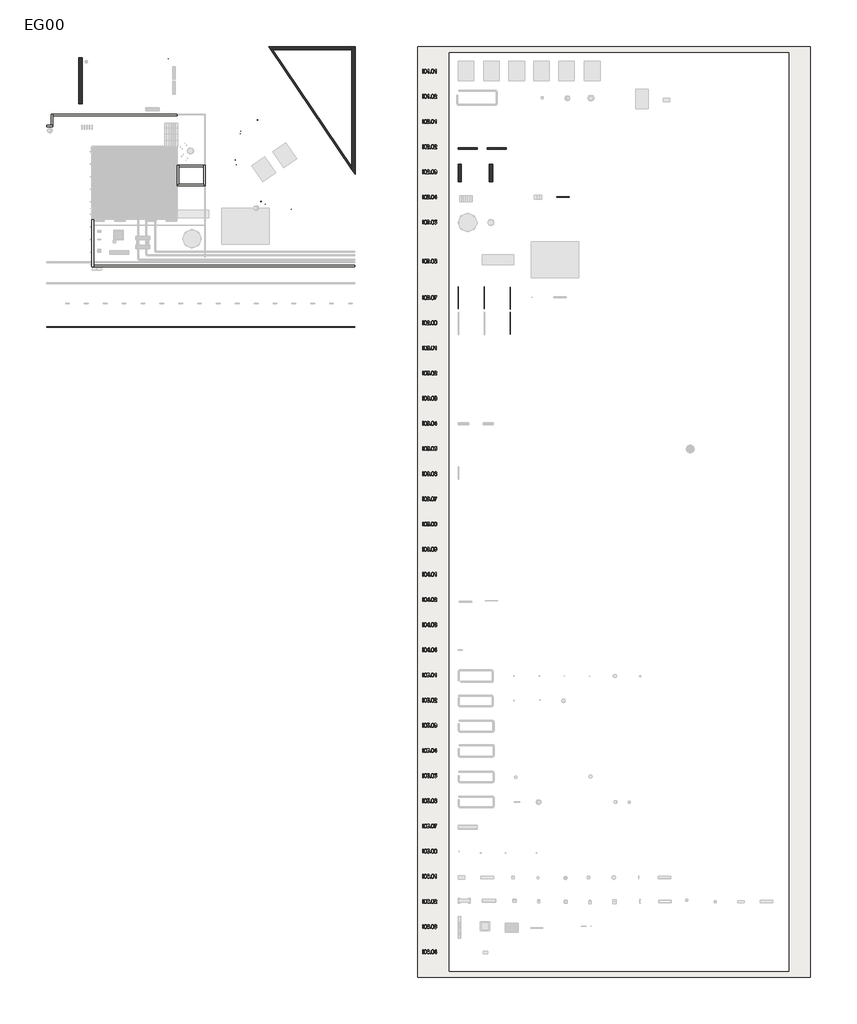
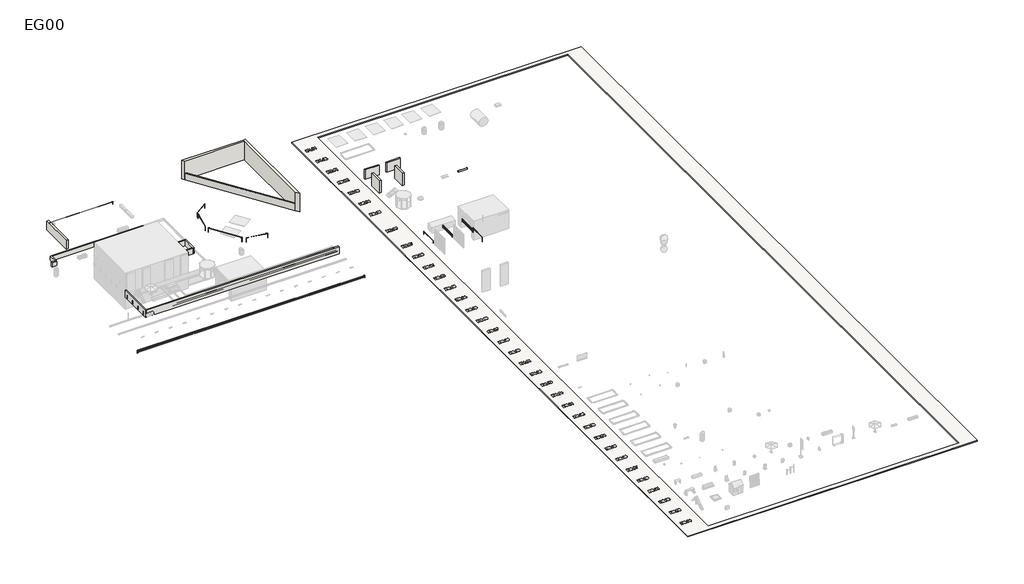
# One storey, part 1 of 11: 18 walls, 10 railings, 1 slab.
"""IFC4 building model written with IfcOpenShell, lengths in millimetres."""

from ifc_helpers import new_model, si_unit, point, frame, frame_2d, origin, origin_with_axes, place, context, project, spatial, polyline, circle_curve, trimmed, segment, composite_curve, outline, extrude, faceted_brep, element, save

model = new_model("IFC4")

# Units and contexts
model_context = context("Model", 3, world=origin())
ifc_project = project(units=[si_unit("LENGTHUNIT", "METRE", prefix="MILLI")], contexts=[model_context])

# Site, building, storey
site = spatial("IfcSite", under=ifc_project)
building = spatial("IfcBuilding", under=site)
storey = spatial("IfcBuildingStorey", under=building, Name="EG00", Elevation=0.0)

# Railings
placement = place(None, origin())
element("IfcRailing", 1, ObjectType="Elektrozaun", at=placement, inside=storey, context=model_context, shape_type="SweptSolid", body=[
    extrude(outline(composite_curve([segment(trimmed(circle_curve(frame_2d((0.0, 20.0)), 20.0), [point((-20.0, 20.0))], [point((20.0, 20.0))], False, "CARTESIAN"), True, "CONTINUOUS"), segment(trimmed(circle_curve(frame_2d((0.0, 20.0)), 20.0), [point((20.0, 20.0))], [point((-20.0, 20.0))], False, "CARTESIAN"), True, "CONTINUOUS")], self_intersect=False)), frame((12156.5106834, -3325.4339734, 2000.0), z_axis=(0.8290375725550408, 0.559192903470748, 0.0), x_axis=(0.559192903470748, -0.8290375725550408, 0.0)), (0.0, 0.0, 1.0), 3202.2135624),
    extrude(outline(composite_curve([segment(trimmed(circle_curve(frame_2d((12166.8736531, -3318.4440621)), 12.5), [point((12173.8635644, -3328.8070317))], [point((12159.8837418, -3308.0810924))], False, "CARTESIAN"), True, "CONTINUOUS"), segment(trimmed(circle_curve(frame_2d((12166.8736531, -3318.4440621)), 12.5), [point((12159.8837418, -3308.0810924))], [point((12173.8635644, -3328.8070317))], False, "CARTESIAN"), True, "CONTINUOUS")], self_intersect=False)), frame((0.0, 0.0, 1000.0), z_axis=(0.0, 0.0, 1.0), x_axis=(1.0, 0.0, 0.0)), (0.0, 0.0, 1.0), 960.0),
    extrude(outline(composite_curve([segment(trimmed(circle_curve(frame_2d((14800.9030723, -1541.7687852)), 12.5), [point((14807.8929836, -1552.1317549))], [point((14793.9131611, -1531.4058155))], False, "CARTESIAN"), True, "CONTINUOUS"), segment(trimmed(circle_curve(frame_2d((14800.9030723, -1541.7687852)), 12.5), [point((14793.9131611, -1531.4058155))], [point((14807.8929836, -1552.1317549))], False, "CARTESIAN"), True, "CONTINUOUS")], self_intersect=False)), frame((0.0, 0.0, 1000.0), z_axis=(0.0, 0.0, 1.0), x_axis=(1.0, 0.0, 0.0)), (0.0, 0.0, 1.0), 960.0),
])
element("IfcRailing", 2, ObjectType="Elektrozaun", at=placement, inside=storey, context=model_context, shape_type="SweptSolid", body=[
    extrude(outline(composite_curve([segment(trimmed(circle_curve(frame_2d((0.0, 20.0)), 20.0), [point((-20.0, 20.0))], [point((20.0, 20.0))], False, "CARTESIAN"), True, "CONTINUOUS"), segment(trimmed(circle_curve(frame_2d((0.0, 20.0)), 20.0), [point((20.0, 20.0))], [point((-20.0, 20.0))], False, "CARTESIAN"), True, "CONTINUOUS")], self_intersect=False)), frame((11267.9410025, -7896.728694, 2000.0), z_axis=(0.1908089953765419, 0.9816271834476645, 0.0), x_axis=(0.9816271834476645, -0.1908089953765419, 0.0)), (0.0, 0.0, 1.0), 4242.6406871),
    extrude(outline(composite_curve([segment(trimmed(circle_curve(frame_2d((11270.3261149, -7884.4583542)), 12.5), [point((11282.5964547, -7886.8434667))], [point((11258.0557751, -7882.0732418))], False, "CARTESIAN"), True, "CONTINUOUS"), segment(trimmed(circle_curve(frame_2d((11270.3261149, -7884.4583542)), 12.5), [point((11258.0557751, -7882.0732418))], [point((11282.5964547, -7886.8434667))], False, "CARTESIAN"), True, "CONTINUOUS")], self_intersect=False)), frame((0.0, 0.0, 1000.0), z_axis=(0.0, 0.0, 1.0), x_axis=(1.0, 0.0, 0.0)), (0.0, 0.0, 1.0), 960.0),
    extrude(outline(composite_curve([segment(trimmed(circle_curve(frame_2d((12075.0898973, -3744.3076058)), 12.5), [point((12087.3602371, -3746.6927182))], [point((12062.8195575, -3741.9224933))], False, "CARTESIAN"), True, "CONTINUOUS"), segment(trimmed(circle_curve(frame_2d((12075.0898973, -3744.3076058)), 12.5), [point((12062.8195575, -3741.9224933))], [point((12087.3602371, -3746.6927182))], False, "CARTESIAN"), True, "CONTINUOUS")], self_intersect=False)), frame((0.0, 0.0, 1000.0), z_axis=(0.0, 0.0, 1.0), x_axis=(1.0, 0.0, 0.0)), (0.0, 0.0, 1.0), 960.0),
])
element("IfcRailing", 3, ObjectType="Elektrozaun", at=placement, inside=storey, context=model_context, shape_type="SweptSolid", body=[
    extrude(outline(composite_curve([segment(trimmed(circle_curve(frame_2d((0.0, 20.0)), 20.0), [point((-20.0, 20.0))], [point((20.0, 20.0))], False, "CARTESIAN"), True, "CONTINUOUS"), segment(trimmed(circle_curve(frame_2d((0.0, 20.0)), 20.0), [point((20.0, 20.0))], [point((-20.0, 20.0))], False, "CARTESIAN"), True, "CONTINUOUS")], self_intersect=False)), frame((15374.0244409, -14508.0262308, 2000.0), z_axis=(-0.5591929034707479, 0.8290375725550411, 0.0), x_axis=(0.8290375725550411, 0.5591929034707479, 0.0)), (0.0, 0.0, 1.0), 7070.0),
    extrude(outline(composite_curve([segment(trimmed(circle_curve(frame_2d((15367.0345296, -14497.6632612)), 12.5), [point((15377.3974993, -14490.6733499))], [point((15356.67156, -14504.6531725))], False, "CARTESIAN"), True, "CONTINUOUS"), segment(trimmed(circle_curve(frame_2d((15367.0345296, -14497.6632612)), 12.5), [point((15356.67156, -14504.6531725))], [point((15377.3974993, -14490.6733499))], False, "CARTESIAN"), True, "CONTINUOUS")], self_intersect=False)), frame((0.0, 0.0, 1000.0), z_axis=(0.0, 0.0, 1.0), x_axis=(1.0, 0.0, 0.0)), (0.0, 0.0, 1.0), 960.0),
    extrude(outline(composite_curve([segment(trimmed(circle_curve(frame_2d((11427.5205247, -8657.0935625)), 12.5), [point((11437.8834943, -8650.1036512))], [point((11417.157555, -8664.0834738))], False, "CARTESIAN"), True, "CONTINUOUS"), segment(trimmed(circle_curve(frame_2d((11427.5205247, -8657.0935625)), 12.5), [point((11417.157555, -8664.0834738))], [point((11437.8834943, -8650.1036512))], False, "CARTESIAN"), True, "CONTINUOUS")], self_intersect=False)), frame((0.0, 0.0, 1000.0), z_axis=(0.0, 0.0, 1.0), x_axis=(1.0, 0.0, 0.0)), (0.0, 0.0, 1.0), 960.0),
])
element("IfcRailing", 4, ObjectType="Elektrozaun", at=placement, inside=storey, context=model_context, shape_type="SweptSolid", body=[
    extrude(outline(composite_curve([segment(trimmed(circle_curve(frame_2d((0.0, 20.0)), 20.0), [point((-19.9999999, 20.0))], [point((20.0, 20.0))], False, "CARTESIAN"), True, "CONTINUOUS"), segment(trimmed(circle_curve(frame_2d((0.0, 20.0)), 20.0), [point((20.0, 20.0))], [point((-19.9999999, 20.0))], False, "CARTESIAN"), True, "CONTINUOUS")], self_intersect=False)), frame((20176.9444462, -15739.9945181, 2000.0), z_axis=(-0.9816271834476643, 0.19080899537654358, 0.0), x_axis=(0.19080899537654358, 0.9816271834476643, 0.0)), (0.0, 0.0, 1.0), 4242.6406871),
    extrude(outline(composite_curve([segment(trimmed(circle_curve(frame_2d((20164.6741064, -15737.6094056)), 12.5), [point((20167.0592188, -15725.3390658))], [point((20162.2889939, -15749.8797454))], False, "CARTESIAN"), True, "CONTINUOUS"), segment(trimmed(circle_curve(frame_2d((20164.6741064, -15737.6094056)), 12.5), [point((20162.2889939, -15749.8797454))], [point((20167.0592188, -15725.3390658))], False, "CARTESIAN"), True, "CONTINUOUS")], self_intersect=False)), frame((0.0, 0.0, 1000.0), z_axis=(0.0, 0.0, 1.0), x_axis=(1.0, 0.0, 0.0)), (0.0, 0.0, 1.0), 960.0),
    extrude(outline(composite_curve([segment(trimmed(circle_curve(frame_2d((16024.5233579, -14932.8456233)), 12.5), [point((16026.9084703, -14920.5752835))], [point((16022.1382454, -14945.1159631))], False, "CARTESIAN"), True, "CONTINUOUS"), segment(trimmed(circle_curve(frame_2d((16024.5233579, -14932.8456233)), 12.5), [point((16022.1382454, -14945.1159631))], [point((16026.9084703, -14920.5752835))], False, "CARTESIAN"), True, "CONTINUOUS")], self_intersect=False)), frame((0.0, 0.0, 1000.0), z_axis=(0.0, 0.0, 1.0), x_axis=(1.0, 0.0, 0.0)), (0.0, 0.0, 1.0), 960.0),
])
element("IfcRailing", 5, ObjectType="Leitschranke", at=placement, inside=storey, context=model_context, shape_type="SweptSolid", body=[
    extrude(outline(composite_curve([segment(trimmed(circle_curve(frame_2d((-34455.6172052, 280.0)), 20.0), [point((-34475.6172052, 280.0))], [point((-34435.6172052, 280.0))], False, "CARTESIAN"), True, "CONTINUOUS"), segment(trimmed(circle_curve(frame_2d((-34455.6172052, 280.0)), 20.0), [point((-34435.6172052, 280.0))], [point((-34475.6172052, 280.0))], False, "CARTESIAN"), True, "CONTINUOUS")], self_intersect=False)), frame((-18727.7537228, 0.0, 0.0), z_axis=(1.0, 0.0, 0.0), x_axis=(0.0, 1.0, 0.0)), (0.0, 0.0, 1.0), 49019.0),
    extrude(outline(composite_curve([segment(trimmed(circle_curve(frame_2d((-34455.6172052, -215.0)), 15.0), [point((-34440.6172052, -215.0))], [point((-34470.6172052, -215.0))], False, "CARTESIAN"), True, "CONTINUOUS"), segment(trimmed(circle_curve(frame_2d((-34455.6172052, -215.0)), 15.0), [point((-34470.6172052, -215.0))], [point((-34440.6172052, -215.0))], False, "CARTESIAN"), True, "CONTINUOUS")], self_intersect=False)), frame((-18727.7537228, 0.0, 0.0), z_axis=(1.0, 0.0, 0.0), x_axis=(0.0, 1.0, 0.0)), (0.0, 0.0, 1.0), 49019.0),
    extrude(outline(composite_curve([segment(trimmed(circle_curve(frame_2d((-34455.6172052, -115.0)), 15.0), [point((-34440.6172052, -115.0))], [point((-34470.6172052, -115.0))], False, "CARTESIAN"), True, "CONTINUOUS"), segment(trimmed(circle_curve(frame_2d((-34455.6172052, -115.0)), 15.0), [point((-34470.6172052, -115.0))], [point((-34440.6172052, -115.0))], False, "CARTESIAN"), True, "CONTINUOUS")], self_intersect=False)), frame((-18727.7537228, 0.0, 0.0), z_axis=(1.0, 0.0, 0.0), x_axis=(0.0, 1.0, 0.0)), (0.0, 0.0, 1.0), 49019.0),
    extrude(outline(composite_curve([segment(trimmed(circle_curve(frame_2d((-34455.6172052, -15.0)), 15.0), [point((-34440.6172052, -15.0))], [point((-34470.6172052, -15.0))], False, "CARTESIAN"), True, "CONTINUOUS"), segment(trimmed(circle_curve(frame_2d((-34455.6172052, -15.0)), 15.0), [point((-34470.6172052, -15.0))], [point((-34440.6172052, -15.0))], False, "CARTESIAN"), True, "CONTINUOUS")], self_intersect=False)), frame((-18727.7537228, 0.0, 0.0), z_axis=(1.0, 0.0, 0.0), x_axis=(0.0, 1.0, 0.0)), (0.0, 0.0, 1.0), 49019.0),
    extrude(outline(composite_curve([segment(trimmed(circle_curve(frame_2d((-34455.6172052, 85.0)), 15.0), [point((-34440.6172052, 85.0))], [point((-34470.6172052, 85.0))], False, "CARTESIAN"), True, "CONTINUOUS"), segment(trimmed(circle_curve(frame_2d((-34455.6172052, 85.0)), 15.0), [point((-34470.6172052, 85.0))], [point((-34440.6172052, 85.0))], False, "CARTESIAN"), True, "CONTINUOUS")], self_intersect=False)), frame((-18727.7537228, 0.0, 0.0), z_axis=(1.0, 0.0, 0.0), x_axis=(0.0, 1.0, 0.0)), (0.0, 0.0, 1.0), 49019.0),
    extrude(outline(composite_curve([segment(trimmed(circle_curve(frame_2d((-34455.6172052, 185.0)), 15.0), [point((-34440.6172052, 185.0))], [point((-34470.6172052, 185.0))], False, "CARTESIAN"), True, "CONTINUOUS"), segment(trimmed(circle_curve(frame_2d((-34455.6172052, 185.0)), 15.0), [point((-34470.6172052, 185.0))], [point((-34440.6172052, 185.0))], False, "CARTESIAN"), True, "CONTINUOUS")], self_intersect=False)), frame((-18727.7537228, 0.0, 0.0), z_axis=(1.0, 0.0, 0.0), x_axis=(0.0, 1.0, 0.0)), (0.0, 0.0, 1.0), 49019.0),
    extrude(outline(polyline([(30271.2462772, -34465.6172052), (30271.2462772, -34445.6172052), (30291.2462772, -34445.6172052), (30291.2462772, -34465.6172052), (30271.2462772, -34465.6172052)])), frame((0.0, 0.0, -300.0), z_axis=(0.0, 0.0, 1.0), x_axis=(1.0, 0.0, 0.0)), (0.0, 0.0, 1.0), 560.0),
    extrude(outline(polyline([(-18727.7537228, -34465.6172052), (-18727.7537228, -34445.6172052), (-18707.7537228, -34445.6172052), (-18707.7537228, -34465.6172052), (-18727.7537228, -34465.6172052)])), frame((0.0, 0.0, -300.0), z_axis=(0.0, 0.0, 1.0), x_axis=(1.0, 0.0, 0.0)), (0.0, 0.0, 1.0), 560.0),
])
element("IfcRailing", 6, ObjectType="Geländer", at=placement, inside=storey, context=model_context, shape_type="SweptSolid", body=[
    extrude(outline(composite_curve([segment(trimmed(circle_curve(frame_2d((580.0, 50871.626143)), 20.0), [point((580.0, 50891.626143))], [point((580.0, 50851.626143))], False, "CARTESIAN"), True, "CONTINUOUS"), segment(trimmed(circle_curve(frame_2d((580.0, 50871.626143)), 20.0), [point((580.0, 50851.626143))], [point((580.0, 50891.626143))], False, "CARTESIAN"), True, "CONTINUOUS")], self_intersect=False)), frame((0.0, -31547.393641, 0.0), z_axis=(0.0, 1.0, 0.0), x_axis=(0.0, 0.0, 1.0)), (0.0, 0.0, 1.0), 3500.0),
    extrude(outline(composite_curve([segment(trimmed(circle_curve(frame_2d((85.0, 50871.626143)), 15.0), [point((85.0, 50886.626143))], [point((85.0, 50856.626143))], False, "CARTESIAN"), True, "CONTINUOUS"), segment(trimmed(circle_curve(frame_2d((85.0, 50871.626143)), 15.0), [point((85.0, 50856.626143))], [point((85.0, 50886.626143))], False, "CARTESIAN"), True, "CONTINUOUS")], self_intersect=False)), frame((0.0, -31547.393641, 0.0), z_axis=(0.0, 1.0, 0.0), x_axis=(0.0, 0.0, 1.0)), (0.0, 0.0, 1.0), 3500.0),
    extrude(outline(polyline([(50861.626143, -28157.393641), (50861.626143, -28137.393641), (50881.626143, -28137.393641), (50881.626143, -28157.393641), (50861.626143, -28157.393641)])), frame((0.0, 0.0, 100.0), z_axis=(0.0, 0.0, 1.0), x_axis=(1.0, 0.0, 0.0)), (0.0, 0.0, 1.0), 460.0),
    extrude(outline(polyline([(50861.626143, -28257.393641), (50861.626143, -28237.393641), (50881.626143, -28237.393641), (50881.626143, -28257.393641), (50861.626143, -28257.393641)])), frame((0.0, 0.0, 100.0), z_axis=(0.0, 0.0, 1.0), x_axis=(1.0, 0.0, 0.0)), (0.0, 0.0, 1.0), 460.0),
    extrude(outline(polyline([(50861.626143, -28357.393641), (50861.626143, -28337.393641), (50881.626143, -28337.393641), (50881.626143, -28357.393641), (50861.626143, -28357.393641)])), frame((0.0, 0.0, 100.0), z_axis=(0.0, 0.0, 1.0), x_axis=(1.0, 0.0, 0.0)), (0.0, 0.0, 1.0), 460.0),
    extrude(outline(polyline([(50861.626143, -28457.393641), (50861.626143, -28437.393641), (50881.626143, -28437.393641), (50881.626143, -28457.393641), (50861.626143, -28457.393641)])), frame((0.0, 0.0, 100.0), z_axis=(0.0, 0.0, 1.0), x_axis=(1.0, 0.0, 0.0)), (0.0, 0.0, 1.0), 460.0),
    extrude(outline(polyline([(50861.626143, -28557.393641), (50861.626143, -28537.393641), (50881.626143, -28537.393641), (50881.626143, -28557.393641), (50861.626143, -28557.393641)])), frame((0.0, 0.0, 100.0), z_axis=(0.0, 0.0, 1.0), x_axis=(1.0, 0.0, 0.0)), (0.0, 0.0, 1.0), 460.0),
    extrude(outline(polyline([(50861.626143, -28657.393641), (50861.626143, -28637.393641), (50881.626143, -28637.393641), (50881.626143, -28657.393641), (50861.626143, -28657.393641)])), frame((0.0, 0.0, 100.0), z_axis=(0.0, 0.0, 1.0), x_axis=(1.0, 0.0, 0.0)), (0.0, 0.0, 1.0), 460.0),
    extrude(outline(polyline([(50861.626143, -28757.393641), (50861.626143, -28737.393641), (50881.626143, -28737.393641), (50881.626143, -28757.393641), (50861.626143, -28757.393641)])), frame((0.0, 0.0, 100.0), z_axis=(0.0, 0.0, 1.0), x_axis=(1.0, 0.0, 0.0)), (0.0, 0.0, 1.0), 460.0),
    extrude(outline(polyline([(50861.626143, -28857.393641), (50861.626143, -28837.393641), (50881.626143, -28837.393641), (50881.626143, -28857.393641), (50861.626143, -28857.393641)])), frame((0.0, 0.0, 100.0), z_axis=(0.0, 0.0, 1.0), x_axis=(1.0, 0.0, 0.0)), (0.0, 0.0, 1.0), 460.0),
    extrude(outline(polyline([(50861.626143, -28957.393641), (50861.626143, -28937.393641), (50881.626143, -28937.393641), (50881.626143, -28957.393641), (50861.626143, -28957.393641)])), frame((0.0, 0.0, 100.0), z_axis=(0.0, 0.0, 1.0), x_axis=(1.0, 0.0, 0.0)), (0.0, 0.0, 1.0), 460.0),
    extrude(outline(polyline([(50861.626143, -29057.393641), (50861.626143, -29037.393641), (50881.626143, -29037.393641), (50881.626143, -29057.393641), (50861.626143, -29057.393641)])), frame((0.0, 0.0, 100.0), z_axis=(0.0, 0.0, 1.0), x_axis=(1.0, 0.0, 0.0)), (0.0, 0.0, 1.0), 460.0),
    extrude(outline(polyline([(50861.626143, -29157.393641), (50861.626143, -29137.393641), (50881.626143, -29137.393641), (50881.626143, -29157.393641), (50861.626143, -29157.393641)])), frame((0.0, 0.0, 100.0), z_axis=(0.0, 0.0, 1.0), x_axis=(1.0, 0.0, 0.0)), (0.0, 0.0, 1.0), 460.0),
    extrude(outline(polyline([(50861.626143, -29257.393641), (50861.626143, -29237.393641), (50881.626143, -29237.393641), (50881.626143, -29257.393641), (50861.626143, -29257.393641)])), frame((0.0, 0.0, 100.0), z_axis=(0.0, 0.0, 1.0), x_axis=(1.0, 0.0, 0.0)), (0.0, 0.0, 1.0), 460.0),
    extrude(outline(polyline([(50861.626143, -29357.393641), (50861.626143, -29337.393641), (50881.626143, -29337.393641), (50881.626143, -29357.393641), (50861.626143, -29357.393641)])), frame((0.0, 0.0, 100.0), z_axis=(0.0, 0.0, 1.0), x_axis=(1.0, 0.0, 0.0)), (0.0, 0.0, 1.0), 460.0),
    extrude(outline(polyline([(50861.626143, -29457.393641), (50861.626143, -29437.393641), (50881.626143, -29437.393641), (50881.626143, -29457.393641), (50861.626143, -29457.393641)])), frame((0.0, 0.0, 100.0), z_axis=(0.0, 0.0, 1.0), x_axis=(1.0, 0.0, 0.0)), (0.0, 0.0, 1.0), 460.0),
    extrude(outline(polyline([(50861.626143, -29557.393641), (50861.626143, -29537.393641), (50881.626143, -29537.393641), (50881.626143, -29557.393641), (50861.626143, -29557.393641)])), frame((0.0, 0.0, 100.0), z_axis=(0.0, 0.0, 1.0), x_axis=(1.0, 0.0, 0.0)), (0.0, 0.0, 1.0), 460.0),
    extrude(outline(polyline([(50861.626143, -29657.393641), (50861.626143, -29637.393641), (50881.626143, -29637.393641), (50881.626143, -29657.393641), (50861.626143, -29657.393641)])), frame((0.0, 0.0, 100.0), z_axis=(0.0, 0.0, 1.0), x_axis=(1.0, 0.0, 0.0)), (0.0, 0.0, 1.0), 460.0),
    extrude(outline(polyline([(50861.626143, -29757.393641), (50861.626143, -29737.393641), (50881.626143, -29737.393641), (50881.626143, -29757.393641), (50861.626143, -29757.393641)])), frame((0.0, 0.0, 100.0), z_axis=(0.0, 0.0, 1.0), x_axis=(1.0, 0.0, 0.0)), (0.0, 0.0, 1.0), 460.0),
    extrude(outline(polyline([(50861.626143, -29857.393641), (50861.626143, -29837.393641), (50881.626143, -29837.393641), (50881.626143, -29857.393641), (50861.626143, -29857.393641)])), frame((0.0, 0.0, 100.0), z_axis=(0.0, 0.0, 1.0), x_axis=(1.0, 0.0, 0.0)), (0.0, 0.0, 1.0), 460.0),
    extrude(outline(polyline([(50861.626143, -29957.393641), (50861.626143, -29937.393641), (50881.626143, -29937.393641), (50881.626143, -29957.393641), (50861.626143, -29957.393641)])), frame((0.0, 0.0, 100.0), z_axis=(0.0, 0.0, 1.0), x_axis=(1.0, 0.0, 0.0)), (0.0, 0.0, 1.0), 460.0),
    extrude(outline(polyline([(50861.626143, -30057.393641), (50861.626143, -30037.393641), (50881.626143, -30037.393641), (50881.626143, -30057.393641), (50861.626143, -30057.393641)])), frame((0.0, 0.0, 100.0), z_axis=(0.0, 0.0, 1.0), x_axis=(1.0, 0.0, 0.0)), (0.0, 0.0, 1.0), 460.0),
    extrude(outline(polyline([(50861.626143, -30157.393641), (50861.626143, -30137.393641), (50881.626143, -30137.393641), (50881.626143, -30157.393641), (50861.626143, -30157.393641)])), frame((0.0, 0.0, 100.0), z_axis=(0.0, 0.0, 1.0), x_axis=(1.0, 0.0, 0.0)), (0.0, 0.0, 1.0), 460.0),
    extrude(outline(polyline([(50861.626143, -30257.393641), (50861.626143, -30237.393641), (50881.626143, -30237.393641), (50881.626143, -30257.393641), (50861.626143, -30257.393641)])), frame((0.0, 0.0, 100.0), z_axis=(0.0, 0.0, 1.0), x_axis=(1.0, 0.0, 0.0)), (0.0, 0.0, 1.0), 460.0),
    extrude(outline(polyline([(50861.626143, -30357.393641), (50861.626143, -30337.393641), (50881.626143, -30337.393641), (50881.626143, -30357.393641), (50861.626143, -30357.393641)])), frame((0.0, 0.0, 100.0), z_axis=(0.0, 0.0, 1.0), x_axis=(1.0, 0.0, 0.0)), (0.0, 0.0, 1.0), 460.0),
    extrude(outline(polyline([(50861.626143, -30457.393641), (50861.626143, -30437.393641), (50881.626143, -30437.393641), (50881.626143, -30457.393641), (50861.626143, -30457.393641)])), frame((0.0, 0.0, 100.0), z_axis=(0.0, 0.0, 1.0), x_axis=(1.0, 0.0, 0.0)), (0.0, 0.0, 1.0), 460.0),
    extrude(outline(polyline([(50861.626143, -30557.393641), (50861.626143, -30537.393641), (50881.626143, -30537.393641), (50881.626143, -30557.393641), (50861.626143, -30557.393641)])), frame((0.0, 0.0, 100.0), z_axis=(0.0, 0.0, 1.0), x_axis=(1.0, 0.0, 0.0)), (0.0, 0.0, 1.0), 460.0),
    extrude(outline(polyline([(50861.626143, -30657.393641), (50861.626143, -30637.393641), (50881.626143, -30637.393641), (50881.626143, -30657.393641), (50861.626143, -30657.393641)])), frame((0.0, 0.0, 100.0), z_axis=(0.0, 0.0, 1.0), x_axis=(1.0, 0.0, 0.0)), (0.0, 0.0, 1.0), 460.0),
    extrude(outline(polyline([(50861.626143, -30757.393641), (50861.626143, -30737.393641), (50881.626143, -30737.393641), (50881.626143, -30757.393641), (50861.626143, -30757.393641)])), frame((0.0, 0.0, 100.0), z_axis=(0.0, 0.0, 1.0), x_axis=(1.0, 0.0, 0.0)), (0.0, 0.0, 1.0), 460.0),
    extrude(outline(polyline([(50861.626143, -30857.393641), (50861.626143, -30837.393641), (50881.626143, -30837.393641), (50881.626143, -30857.393641), (50861.626143, -30857.393641)])), frame((0.0, 0.0, 100.0), z_axis=(0.0, 0.0, 1.0), x_axis=(1.0, 0.0, 0.0)), (0.0, 0.0, 1.0), 460.0),
    extrude(outline(polyline([(50861.626143, -30957.393641), (50861.626143, -30937.393641), (50881.626143, -30937.393641), (50881.626143, -30957.393641), (50861.626143, -30957.393641)])), frame((0.0, 0.0, 100.0), z_axis=(0.0, 0.0, 1.0), x_axis=(1.0, 0.0, 0.0)), (0.0, 0.0, 1.0), 460.0),
    extrude(outline(polyline([(50861.626143, -31057.393641), (50861.626143, -31037.393641), (50881.626143, -31037.393641), (50881.626143, -31057.393641), (50861.626143, -31057.393641)])), frame((0.0, 0.0, 100.0), z_axis=(0.0, 0.0, 1.0), x_axis=(1.0, 0.0, 0.0)), (0.0, 0.0, 1.0), 460.0),
    extrude(outline(polyline([(50861.626143, -31157.393641), (50861.626143, -31137.393641), (50881.626143, -31137.393641), (50881.626143, -31157.393641), (50861.626143, -31157.393641)])), frame((0.0, 0.0, 100.0), z_axis=(0.0, 0.0, 1.0), x_axis=(1.0, 0.0, 0.0)), (0.0, 0.0, 1.0), 460.0),
    extrude(outline(polyline([(50861.626143, -31257.393641), (50861.626143, -31237.393641), (50881.626143, -31237.393641), (50881.626143, -31257.393641), (50861.626143, -31257.393641)])), frame((0.0, 0.0, 100.0), z_axis=(0.0, 0.0, 1.0), x_axis=(1.0, 0.0, 0.0)), (0.0, 0.0, 1.0), 460.0),
    extrude(outline(polyline([(50861.626143, -31357.393641), (50861.626143, -31337.393641), (50881.626143, -31337.393641), (50881.626143, -31357.393641), (50861.626143, -31357.393641)])), frame((0.0, 0.0, 100.0), z_axis=(0.0, 0.0, 1.0), x_axis=(1.0, 0.0, 0.0)), (0.0, 0.0, 1.0), 460.0),
    extrude(outline(polyline([(50861.626143, -31457.393641), (50861.626143, -31437.393641), (50881.626143, -31437.393641), (50881.626143, -31457.393641), (50861.626143, -31457.393641)])), frame((0.0, 0.0, 100.0), z_axis=(0.0, 0.0, 1.0), x_axis=(1.0, 0.0, 0.0)), (0.0, 0.0, 1.0), 460.0),
    extrude(outline(polyline([(50861.626143, -28067.393641), (50861.626143, -28047.393641), (50881.626143, -28047.393641), (50881.626143, -28067.393641), (50861.626143, -28067.393641)])), origin_with_axes(), (0.0, 0.0, 1.0), 560.0),
    extrude(outline(polyline([(50861.626143, -31547.393641), (50861.626143, -31527.393641), (50881.626143, -31527.393641), (50881.626143, -31547.393641), (50861.626143, -31547.393641)])), origin_with_axes(), (0.0, 0.0, 1.0), 560.0),
])
element("IfcRailing", 7, ObjectType="Leitschranke", at=placement, inside=storey, context=model_context, shape_type="SweptSolid", body=[
    extrude(outline(composite_curve([segment(trimmed(circle_curve(frame_2d((580.0, 55005.2484531)), 20.0), [point((580.0, 55025.2484531))], [point((580.0, 54985.2484531))], False, "CARTESIAN"), True, "CONTINUOUS"), segment(trimmed(circle_curve(frame_2d((580.0, 55005.2484531)), 20.0), [point((580.0, 54985.2484531))], [point((580.0, 55025.2484531))], False, "CARTESIAN"), True, "CONTINUOUS")], self_intersect=False)), frame((0.0, -31628.697095, 0.0), z_axis=(0.0, 1.0, 0.0), x_axis=(0.0, 0.0, 1.0)), (0.0, 0.0, 1.0), 3500.0),
    extrude(outline(composite_curve([segment(trimmed(circle_curve(frame_2d((85.0, 55005.2484531)), 15.0), [point((85.0, 55020.2484531))], [point((85.0, 54990.2484531))], False, "CARTESIAN"), True, "CONTINUOUS"), segment(trimmed(circle_curve(frame_2d((85.0, 55005.2484531)), 15.0), [point((85.0, 54990.2484531))], [point((85.0, 55020.2484531))], False, "CARTESIAN"), True, "CONTINUOUS")], self_intersect=False)), frame((0.0, -31628.697095, 0.0), z_axis=(0.0, 1.0, 0.0), x_axis=(0.0, 0.0, 1.0)), (0.0, 0.0, 1.0), 3500.0),
    extrude(outline(composite_curve([segment(trimmed(circle_curve(frame_2d((185.0, 55005.2484531)), 15.0), [point((185.0, 55020.2484531))], [point((185.0, 54990.2484531))], False, "CARTESIAN"), True, "CONTINUOUS"), segment(trimmed(circle_curve(frame_2d((185.0, 55005.2484531)), 15.0), [point((185.0, 54990.2484531))], [point((185.0, 55020.2484531))], False, "CARTESIAN"), True, "CONTINUOUS")], self_intersect=False)), frame((0.0, -31628.697095, 0.0), z_axis=(0.0, 1.0, 0.0), x_axis=(0.0, 0.0, 1.0)), (0.0, 0.0, 1.0), 3500.0),
    extrude(outline(composite_curve([segment(trimmed(circle_curve(frame_2d((285.0, 55005.2484531)), 15.0), [point((285.0, 55020.2484531))], [point((285.0, 54990.2484531))], False, "CARTESIAN"), True, "CONTINUOUS"), segment(trimmed(circle_curve(frame_2d((285.0, 55005.2484531)), 15.0), [point((285.0, 54990.2484531))], [point((285.0, 55020.2484531))], False, "CARTESIAN"), True, "CONTINUOUS")], self_intersect=False)), frame((0.0, -31628.697095, 0.0), z_axis=(0.0, 1.0, 0.0), x_axis=(0.0, 0.0, 1.0)), (0.0, 0.0, 1.0), 3500.0),
    extrude(outline(composite_curve([segment(trimmed(circle_curve(frame_2d((385.0, 55005.2484531)), 15.0), [point((385.0, 55020.2484531))], [point((385.0, 54990.2484531))], False, "CARTESIAN"), True, "CONTINUOUS"), segment(trimmed(circle_curve(frame_2d((385.0, 55005.2484531)), 15.0), [point((385.0, 54990.2484531))], [point((385.0, 55020.2484531))], False, "CARTESIAN"), True, "CONTINUOUS")], self_intersect=False)), frame((0.0, -31628.697095, 0.0), z_axis=(0.0, 1.0, 0.0), x_axis=(0.0, 0.0, 1.0)), (0.0, 0.0, 1.0), 3500.0),
    extrude(outline(composite_curve([segment(trimmed(circle_curve(frame_2d((485.0, 55005.2484531)), 15.0), [point((485.0, 55020.2484531))], [point((485.0, 54990.2484531))], False, "CARTESIAN"), True, "CONTINUOUS"), segment(trimmed(circle_curve(frame_2d((485.0, 55005.2484531)), 15.0), [point((485.0, 54990.2484531))], [point((485.0, 55020.2484531))], False, "CARTESIAN"), True, "CONTINUOUS")], self_intersect=False)), frame((0.0, -31628.697095, 0.0), z_axis=(0.0, 1.0, 0.0), x_axis=(0.0, 0.0, 1.0)), (0.0, 0.0, 1.0), 3500.0),
    extrude(outline(polyline([(54995.2484531, -28148.697095), (54995.2484531, -28128.697095), (55015.2484531, -28128.697095), (55015.2484531, -28148.697095), (54995.2484531, -28148.697095)])), origin_with_axes(), (0.0, 0.0, 1.0), 560.0),
    extrude(outline(polyline([(54995.2484531, -31628.697095), (54995.2484531, -31608.697095), (55015.2484531, -31608.697095), (55015.2484531, -31628.697095), (54995.2484531, -31628.697095)])), origin_with_axes(), (0.0, 0.0, 1.0), 560.0),
])
element("IfcRailing", 8, ObjectType="Elektrozaun", at=placement, inside=storey, context=model_context, shape_type="SweptSolid", body=[
    extrude(outline(composite_curve([segment(trimmed(circle_curve(frame_2d((980.0, 54996.9137651)), 20.0), [point((980.0, 55016.9137651))], [point((980.0, 54976.9137651))], False, "CARTESIAN"), True, "CONTINUOUS"), segment(trimmed(circle_curve(frame_2d((980.0, 54996.9137651)), 20.0), [point((980.0, 54976.9137651))], [point((980.0, 55016.9137651))], False, "CARTESIAN"), True, "CONTINUOUS")], self_intersect=False)), frame((0.0, -35618.164712, 0.0), z_axis=(0.0, 1.0, 0.0), x_axis=(0.0, 0.0, 1.0)), (0.0, 0.0, 1.0), 3500.0),
    extrude(outline(composite_curve([segment(trimmed(circle_curve(frame_2d((54996.9137651, -32130.664712)), 12.5), [point((55009.4137651, -32130.664712))], [point((54984.4137651, -32130.664712))], False, "CARTESIAN"), True, "CONTINUOUS"), segment(trimmed(circle_curve(frame_2d((54996.9137651, -32130.664712)), 12.5), [point((54984.4137651, -32130.664712))], [point((55009.4137651, -32130.664712))], False, "CARTESIAN"), True, "CONTINUOUS")], self_intersect=False)), origin_with_axes(), (0.0, 0.0, 1.0), 960.0),
    extrude(outline(composite_curve([segment(trimmed(circle_curve(frame_2d((54996.9137651, -35605.664712)), 12.5), [point((55009.4137651, -35605.664712))], [point((54984.4137651, -35605.664712))], False, "CARTESIAN"), True, "CONTINUOUS"), segment(trimmed(circle_curve(frame_2d((54996.9137651, -35605.664712)), 12.5), [point((54984.4137651, -35605.664712))], [point((55009.4137651, -35605.664712))], False, "CARTESIAN"), True, "CONTINUOUS")], self_intersect=False)), origin_with_axes(), (0.0, 0.0, 1.0), 960.0),
])
element("IfcRailing", 9, ObjectType="Handlauf", at=placement, inside=storey, context=model_context, shape_type="SweptSolid", body=[
    extrude(outline(composite_curve([segment(trimmed(circle_curve(frame_2d((8173.0113264, 1580.0)), 20.0), [point((8153.0113264, 1580.0))], [point((8193.0113264, 1580.0))], False, "CARTESIAN"), True, "CONTINUOUS"), segment(trimmed(circle_curve(frame_2d((8173.0113264, 1580.0)), 20.0), [point((8193.0113264, 1580.0))], [point((8153.0113264, 1580.0))], False, "CARTESIAN"), True, "CONTINUOUS")], self_intersect=False)), frame((-13084.7136455, 0.0, 0.0), z_axis=(1.0, 0.0, 0.0), x_axis=(0.0, 1.0, 0.0)), (0.0, 0.0, 1.0), 13706.9245527),
    extrude(outline(composite_curve([segment(trimmed(circle_curve(frame_2d((8173.0113264, 1585.0)), 15.0), [point((8188.0113264, 1585.0))], [point((8158.0113264, 1585.0))], False, "CARTESIAN"), True, "CONTINUOUS"), segment(trimmed(circle_curve(frame_2d((8173.0113264, 1585.0)), 15.0), [point((8158.0113264, 1585.0))], [point((8188.0113264, 1585.0))], False, "CARTESIAN"), True, "CONTINUOUS")], self_intersect=False)), frame((-13084.7136455, 0.0, 0.0), z_axis=(1.0, 0.0, 0.0), x_axis=(0.0, 1.0, 0.0)), (0.0, 0.0, 1.0), 13706.9245527),
    extrude(outline(polyline([(1560.0019828, 602.2109072), (1000.0019836, 602.2109072), (999.9980164, 622.2109072), (1559.9980156, 622.2109072), (1560.0019828, 602.2109072)])), frame((0.0, 8163.0113264, 0.0), z_axis=(0.0, 1.0, 0.0), x_axis=(0.0, 0.0, 1.0)), (0.0, 0.0, 1.0), 20.0),
    extrude(outline(polyline([(1560.0019828, -13084.7136455), (1000.0019836, -13084.7136455), (999.9980164, -13064.7136455), (1559.9980156, -13064.7136455), (1560.0019828, -13084.7136455)])), frame((0.0, 8163.0113264, 0.0), z_axis=(0.0, 1.0, 0.0), x_axis=(0.0, 0.0, 1.0)), (0.0, 0.0, 1.0), 20.0),
])
element("IfcRailing", 10, ObjectType="Handlauf", at=placement, inside=storey, context=model_context, shape_type="SweptSolid", body=[
    extrude(outline(composite_curve([segment(trimmed(circle_curve(frame_2d((580.0, 46742.626143)), 20.0), [point((580.0, 46762.626143))], [point((580.0, 46722.626143))], False, "CARTESIAN"), True, "CONTINUOUS"), segment(trimmed(circle_curve(frame_2d((580.0, 46742.626143)), 20.0), [point((580.0, 46722.626143))], [point((580.0, 46762.626143))], False, "CARTESIAN"), True, "CONTINUOUS")], self_intersect=False)), frame((0.0, -31547.393641, 0.0), z_axis=(0.0, 1.0, 0.0), x_axis=(0.0, 0.0, 1.0)), (0.0, 0.0, 1.0), 3500.0),
    extrude(outline(composite_curve([segment(trimmed(circle_curve(frame_2d((585.0, 46742.626143)), 15.0), [point((585.0, 46757.626143))], [point((585.0, 46727.626143))], False, "CARTESIAN"), True, "CONTINUOUS"), segment(trimmed(circle_curve(frame_2d((585.0, 46742.626143)), 15.0), [point((585.0, 46727.626143))], [point((585.0, 46757.626143))], False, "CARTESIAN"), True, "CONTINUOUS")], self_intersect=False)), frame((0.0, -31547.393641, 0.0), z_axis=(0.0, 1.0, 0.0), x_axis=(0.0, 0.0, 1.0)), (0.0, 0.0, 1.0), 3500.0),
    extrude(outline(polyline([(46732.626143, -28067.393641), (46732.626143, -28047.393641), (46752.626143, -28047.393641), (46752.626143, -28067.393641), (46732.626143, -28067.393641)])), origin_with_axes(), (0.0, 0.0, 1.0), 560.0),
    extrude(outline(polyline([(46732.626143, -31547.393641), (46732.626143, -31527.393641), (46752.626143, -31527.393641), (46752.626143, -31547.393641), (46732.626143, -31547.393641)])), origin_with_axes(), (0.0, 0.0, 1.0), 560.0),
])

# Slab
element("IfcSlab", 11, ObjectType="Farbe Weiss", at=placement, inside=storey, context=model_context, shape_type="SweptSolid", body=[
    extrude(outline(polyline([(102713.2462772, 10141.302905), (102713.2462772, -137858.697095), (40291.2462772, -137858.697095), (40291.2462772, 10141.302905), (102713.2462772, 10141.302905)]), holes=[polyline([(99291.2462772, 9141.302905), (45291.2462772, 9141.302905), (45291.2462772, -136858.697095), (99291.2462772, -136858.697095), (99291.2462772, 9141.302905)])]), frame((0.0, 0.0, -200.0), z_axis=(0.0, 0.0, 1.0), x_axis=(1.0, 0.0, 0.0)), (0.0, 0.0, 1.0), 200.0),
])

# Walls
element("IfcWall", 12, ObjectType="Stützmauer vor Ort erstellt", at=placement, inside=storey, context=model_context, shape_type="Brep", body=[
    faceted_brep([(-17708.7537228, -2368.9886736, 0.0), (-17958.7537228, -2368.9886736, 0.0), (-18728.7537228, -2368.9886736, 0.0), (-18728.7537228, -2368.9886736, 1010.0), (-17958.7537228, -2368.9886736, 1010.0), (-17708.7537228, -2368.9886736, 1010.0), (-17708.7537228, -2618.9886736, 0.0), (-17708.7537228, -2618.9886736, 1010.0), (-18728.7537228, -2618.9886736, 1010.0), (-18728.7537228, -2618.9886736, 0.0)], [[[0, 1, 2, 3, 4, 5]], [[6, 7, 8, 9]], [[2, 1, 0, 6, 9]], [[3, 2, 9, 8]], [[5, 4, 3, 8, 7]], [[0, 5, 7, 6]]]),
])
element("IfcWall", 13, ObjectType="Stützmauer vor Ort erstellt", at=placement, inside=storey, context=model_context, shape_type="Brep", body=[
    faceted_brep([(-17958.7537228, -618.9886736, 0.0), (-17958.7537228, -2368.9886736, 0.0), (-17958.7537228, -2368.9886736, 1010.0), (-17958.7537228, -618.9886736, 1010.0), (-17708.7537228, -618.9886736, 0.0), (-17708.7537228, -618.9886736, 1010.0), (-17708.7537228, -868.9886736, 1010.0), (-17708.7537228, -2368.9886736, 1010.0), (-17708.7537228, -2368.9886736, 0.0), (-17708.7537228, -868.9886736, 0.0)], [[[0, 1, 2, 3]], [[4, 5, 6, 7, 8, 9]], [[1, 0, 4, 9, 8]], [[3, 2, 7, 6, 5]], [[0, 3, 5, 4]], [[2, 1, 8, 7]]]),
])
element("IfcWall", 14, ObjectType="Stützmauer vor Ort erstellt", at=placement, inside=storey, context=model_context, shape_type="SweptSolid", body=[
    extrude(outline(polyline([(2073.9710847, -868.9886736), (-17708.7537228, -868.9886736), (-17708.7537228, -618.9886736), (2073.9710847, -618.9886736), (2073.9710847, -868.9886736)])), origin_with_axes(), (0.0, 0.0, 1.0), 1010.0),
])
element("IfcWall", 15, ObjectType="Stützmauer vor Ort erstellt", at=placement, inside=storey, context=model_context, shape_type="Brep", body=[
    faceted_brep([(-11511.8892616, -17353.5588268, -537.6153907), (-11511.8892616, -24880.6172052, -537.6153907), (-11511.8892616, -24880.6172052, 1100.0), (-11511.8892616, -17353.5588268, 1100.0), (-11261.8892616, -17353.5588268, -537.6153907), (-11261.8892616, -17353.5588268, 1100.0), (-11261.8892616, -24880.6172052, 1100.0), (-11261.8892616, -24880.6172052, 1000.0), (-11261.8892616, -24880.6172052, -537.6153907)], [[[0, 1, 2, 3]], [[4, 5, 6, 7, 8]], [[1, 0, 4, 8]], [[3, 2, 6, 5]], [[0, 3, 5, 4]], [[2, 1, 8, 7, 6]]]),
])
element("IfcWall", 16, ObjectType="Stützmauer vor Ort erstellt", at=placement, inside=storey, context=model_context, shape_type="Brep", body=[
    faceted_brep([(-11261.8892616, -24880.6172052, -594.7922877), (30291.2462772, -24880.6172052, -594.7922877), (30291.2462772, -24880.6172052, 1000.0), (-11261.8892616, -24880.6172052, 1000.0), (-11261.8892616, -24880.6172052, -537.6153907), (-11261.8892616, -24630.6172052, -594.7922877), (-11261.8892616, -24630.6172052, 1000.0), (30291.2462772, -24630.6172052, 1000.0), (30291.2462772, -24630.6172052, -594.7922877)], [[[0, 1, 2, 3, 4]], [[5, 6, 7, 8]], [[1, 0, 5, 8]], [[2, 1, 8, 7]], [[3, 2, 7, 6]], [[0, 4, 3, 6, 5]]]),
])
element("IfcWall", 17, ObjectType="Stützmauer vor Ort erstellt", at=placement, inside=storey, context=model_context, shape_type="SweptSolid", body=[
    extrude(outline(polyline([(17251.9447851, 9641.302905), (29811.2462772, -8978.6272788), (29811.2462772, -9425.7001913), (16950.390298, 9641.302905), (17251.9447851, 9641.302905)])), origin_with_axes(), (0.0, 0.0, 1.0), 1500.0),
])
element("IfcWall", 18, ObjectType="Wand vorgefertigt", at=placement, inside=storey, context=model_context, shape_type="Brep", body=[
    faceted_brep([(30311.2462772, -10166.9806756, 0.0), (30311.2462772, 10141.302905, 0.0), (30311.2462772, 10141.302905, 4198.5167285), (30311.2462772, -10166.9806756, 4198.5167285), (29811.2462772, -9425.7001913, 0.0), (29811.2462772, -9425.7001913, 1500.0), (29811.2462772, -9425.7001913, 4198.5167285), (29811.2462772, 10141.302905, 4198.5167285), (29811.2462772, 10141.302905, 0.0), (29811.2462772, 9641.302905, 0.0), (29811.2462772, -8978.6272788, 0.0)], [[[0, 1, 2, 3]], [[4, 5, 6, 7, 8, 9, 10]], [[1, 0, 4, 10, 9, 8]], [[3, 2, 7, 6]], [[2, 1, 8, 7]], [[0, 3, 6, 5, 4]]]),
])
element("IfcWall", 19, ObjectType="Wand vor Ort erstellt", at=placement, inside=storey, context=model_context, shape_type="SweptSolid", body=[
    extrude(outline(polyline([(-13584.7136455, 1084.1171855), (-13584.7136455, 8371.1171855), (-13084.7136455, 8371.1171855), (-13084.7136455, 1084.1171855), (-13584.7136455, 1084.1171855)])), origin_with_axes(), (0.0, 0.0, 1.0), 2000.0),
])
element("IfcWall", 20, ObjectType="Wand vorgefertigt", at=placement, inside=storey, context=model_context, shape_type="Brep", body=[
    faceted_brep([(16950.390298, 9641.302905, 0.0), (17251.9447851, 9641.302905, 0.0), (29811.2462772, 9641.302905, 0.0), (29811.2462772, 9641.302905, 4213.3656823), (16950.390298, 9641.302905, 4213.3656823), (16950.390298, 9641.302905, 1500.0), (16613.1360396, 10141.302905, 0.0), (16613.1360396, 10141.302905, 4213.3656823), (29811.2462772, 10141.302905, 4213.3656823), (29811.2462772, 10141.302905, 4198.5167285), (29811.2462772, 10141.302905, 0.0)], [[[0, 1, 2, 3, 4, 5]], [[6, 7, 8, 9, 10]], [[2, 1, 0, 6, 10]], [[4, 3, 8, 7]], [[3, 2, 10, 9, 8]], [[0, 5, 4, 7, 6]]]),
])
element("IfcWall", 21, ObjectType="Stützmauer vor Ort erstellt", at=placement, inside=storey, context=model_context, shape_type="Brep", body=[
    faceted_brep([(6263.1107384, -8758.9886736, 0.0), (6263.1107384, -9008.9886736, 0.0), (6263.1107384, -11751.0608994, 0.0), (6263.1107384, -12001.0608994, 0.0), (6263.1107384, -12001.0608994, 1200.0), (6263.1107384, -11751.0608994, 1200.0), (6263.1107384, -9008.9886736, 1200.0), (6263.1107384, -8758.9886736, 1200.0), (6513.1107384, -8758.9886736, 0.0), (6513.1107384, -8758.9886736, 1200.0), (6513.1107384, -12001.0608994, 1200.0), (6513.1107384, -12001.0608994, 0.0)], [[[0, 1, 2, 3, 4, 5, 6, 7]], [[8, 9, 10, 11]], [[3, 2, 1, 0, 8, 11]], [[7, 6, 5, 4, 10, 9]], [[4, 3, 11, 10]], [[0, 7, 9, 8]]]),
])
element("IfcWall", 22, ObjectType="Stützmauer vor Ort erstellt", at=placement, inside=storey, context=model_context, shape_type="Brep", body=[
    faceted_brep([(6263.1107384, -11751.0608994, 0.0), (2323.9710847, -11751.0608994, 0.0), (2073.9710847, -11751.0608994, 0.0), (2073.9710847, -11751.0608994, 1200.0), (2323.9710847, -11751.0608994, 1200.0), (6263.1107384, -11751.0608994, 1200.0), (6263.1107384, -12001.0608994, 0.0), (6263.1107384, -12001.0608994, 1200.0), (2073.9710847, -12001.0608994, 1200.0), (2073.9710847, -12001.0608994, 0.0)], [[[0, 1, 2, 3, 4, 5]], [[6, 7, 8, 9]], [[2, 1, 0, 6, 9]], [[5, 4, 3, 8, 7]], [[0, 5, 7, 6]], [[3, 2, 9, 8]]]),
])
element("IfcWall", 23, ObjectType="Stützmauer vor Ort erstellt", at=placement, inside=storey, context=model_context, shape_type="Brep", body=[
    faceted_brep([(2323.9710847, -11751.0608994, 0.0), (2323.9710847, -9008.9886736, 0.0), (2323.9710847, -8758.9886736, 0.0), (2323.9710847, -8758.9886736, 1200.0), (2323.9710847, -9008.9886736, 1200.0), (2323.9710847, -11751.0608994, 1200.0), (2073.9710847, -11751.0608994, 0.0), (2073.9710847, -11751.0608994, 1200.0), (2073.9710847, -8758.9886736, 1200.0), (2073.9710847, -8758.9886736, 0.0)], [[[0, 1, 2, 3, 4, 5]], [[6, 7, 8, 9]], [[2, 1, 0, 6, 9]], [[5, 4, 3, 8, 7]], [[0, 5, 7, 6]], [[3, 2, 9, 8]]]),
])
element("IfcWall", 24, ObjectType="Stützmauer vor Ort erstellt", at=placement, inside=storey, context=model_context, shape_type="SweptSolid", body=[
    extrude(outline(polyline([(6263.1107384, -9008.9886736), (2323.9710847, -9008.9886736), (2323.9710847, -8758.9886736), (6263.1107384, -8758.9886736), (6263.1107384, -9008.9886736)])), origin_with_axes(), (0.0, 0.0, 1.0), 1200.0),
])
element("IfcWall", 25, ObjectType="Wand vorgefertigt", at=placement, inside=storey, context=model_context, shape_type="SweptSolid", body=[
    extrude(outline(polyline([(46722.626143, -11352.697095), (46722.626143, -8546.697095), (47222.626143, -8546.697095), (47222.626143, -11352.697095), (46722.626143, -11352.697095)])), frame((0.0, 0.0, -800.0), z_axis=(0.0, 0.0, 1.0), x_axis=(1.0, 0.0, 0.0)), (0.0, 0.0, 1.0), 2800.0),
])
element("IfcWall", 26, ObjectType="Stützmauer vorgefertigt", at=placement, inside=storey, context=model_context, shape_type="SweptSolid", body=[
    extrude(outline(polyline([(49722.626143, -6162.8548696), (46722.626143, -6162.8548696), (46722.626143, -5912.8548696), (49722.626143, -5912.8548696), (49722.626143, -6162.8548696)])), frame((0.0, 0.0, -800.0), z_axis=(0.0, 0.0, 1.0), x_axis=(1.0, 0.0, 0.0)), (0.0, 0.0, 1.0), 2189.9936244),
])
element("IfcWall", 27, ObjectType="Stellplatten", at=placement, inside=storey, context=model_context, shape_type="SweptSolid", body=[
    extrude(outline(polyline([(62389.6735524, -13699.8520285), (64389.6735524, -13699.8520285), (64389.6735524, -13779.8520285), (62389.6735524, -13779.8520285), (62389.6735524, -13699.8520285)])), origin_with_axes(), (0.0, 0.0, 1.0), 300.0),
])
element("IfcWall", 28, ObjectType="Stützmauer vor Ort erstellt", at=placement, inside=storey, context=model_context, shape_type="SweptSolid", body=[
    extrude(outline(polyline([(54340.5586037, -6162.8548696), (51340.5586037, -6162.8548696), (51340.5586037, -5912.8548696), (54340.5586037, -5912.8548696), (54340.5586037, -6162.8548696)])), frame((0.0, 0.0, -800.0), z_axis=(0.0, 0.0, 1.0), x_axis=(1.0, 0.0, 0.0)), (0.0, 0.0, 1.0), 2189.9936244),
])
element("IfcWall", 29, ObjectType="Wand vor Ort erstellt", at=placement, inside=storey, context=model_context, shape_type="SweptSolid", body=[
    extrude(outline(polyline([(51683.272905, -11352.697095), (51683.272905, -8546.697095), (52183.272905, -8546.697095), (52183.272905, -11352.697095), (51683.272905, -11352.697095)])), frame((0.0, 0.0, -800.0), z_axis=(0.0, 0.0, 1.0), x_axis=(1.0, 0.0, 0.0)), (0.0, 0.0, 1.0), 2800.0),
])

save(model, "model.ifc")
